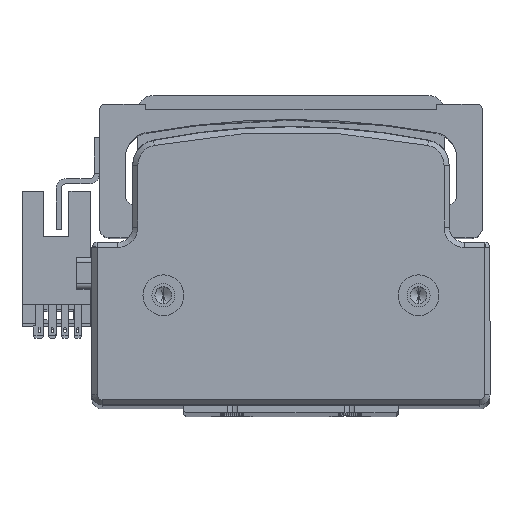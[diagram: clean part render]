
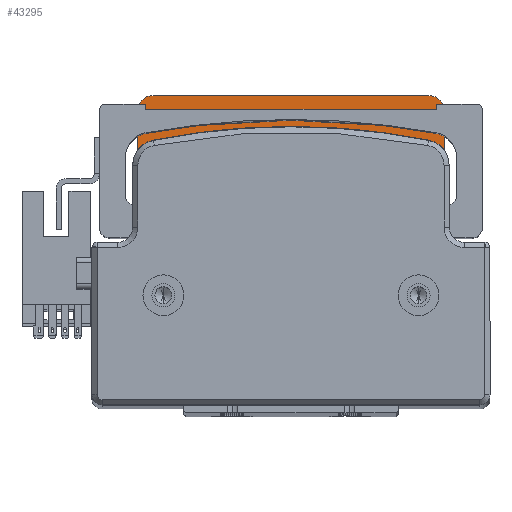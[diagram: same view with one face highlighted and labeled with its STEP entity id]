
A CAD part, top view. The second image highlights one B-rep face of the part: STEP entity #43295.
In plain terms, the highlighted planar face has unit normal (0, 0, 1) as drawn and (0, 0, -1) by its records, which use the part's own axes.
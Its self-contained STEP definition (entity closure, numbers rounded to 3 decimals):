
#344 = LINE ( 'NONE', #48832, #29508 ) ;
#531 = VERTEX_POINT ( 'NONE', #28614 ) ;
#629 = EDGE_CURVE ( 'NONE', #26598, #30236, #29017, .T. ) ;
#705 = CARTESIAN_POINT ( 'NONE',  ( 19., 30., 44. ) ) ;
#751 = CARTESIAN_POINT ( 'NONE',  ( -24.749, 24.749, 44. ) ) ;
#876 = VERTEX_POINT ( 'NONE', #28642 ) ;
#1558 = LINE ( 'NONE', #705, #30669 ) ;
#1728 = ORIENTED_EDGE ( 'NONE', *, *, #629, .F. ) ;
#1910 = CIRCLE ( 'NONE', #26261, 19. ) ;
#1962 = EDGE_LOOP ( 'NONE', ( #3566, #23325 ) ) ;
#2043 = LINE ( 'NONE', #17581, #48799 ) ;
#2486 = DIRECTION ( 'NONE',  ( 0., -1., 0. ) ) ;
#2836 = AXIS2_PLACEMENT_3D ( 'NONE', #34734, #12066, #38549 ) ;
#3104 = VECTOR ( 'NONE', #18804, 1000. ) ;
#3202 = CARTESIAN_POINT ( 'NONE',  ( -19., 17., 44. ) ) ;
#3210 = CARTESIAN_POINT ( 'NONE',  ( -27., 27., 44. ) ) ;
#3566 = ORIENTED_EDGE ( 'NONE', *, *, #25587, .F. ) ;
#3693 = CIRCLE ( 'NONE', #41589, 1.65 ) ;
#3849 = ORIENTED_EDGE ( 'NONE', *, *, #34403, .T. ) ;
#4558 = DIRECTION ( 'NONE',  ( 1., 0., 0. ) ) ;
#4708 = EDGE_CURVE ( 'NONE', #15969, #34832, #39671, .T. ) ;
#4723 = ORIENTED_EDGE ( 'NONE', *, *, #33452, .F. ) ;
#4771 = FACE_BOUND ( 'NONE', #1962, .T. ) ;
#4827 = CIRCLE ( 'NONE', #7443, 3. ) ;
#4834 = EDGE_LOOP ( 'NONE', ( #37500, #4723, #23876, #9001, #46840, #46975, #48701, #33370, #21895, #1728, #3849, #7902 ) ) ;
#4998 = AXIS2_PLACEMENT_3D ( 'NONE', #3210, #29857, #7043 ) ;
#6841 = VERTEX_POINT ( 'NONE', #45743 ) ;
#7043 = DIRECTION ( 'NONE',  ( 1., 0., 0. ) ) ;
#7443 = AXIS2_PLACEMENT_3D ( 'NONE', #19878, #46284, #23677 ) ;
#7541 = VECTOR ( 'NONE', #47703, 1000. ) ;
#7581 = VERTEX_POINT ( 'NONE', #42910 ) ;
#7902 = ORIENTED_EDGE ( 'NONE', *, *, #18330, .T. ) ;
#7997 = CARTESIAN_POINT ( 'NONE',  ( -27., 30., 44. ) ) ;
#8067 = CARTESIAN_POINT ( 'NONE',  ( 30., -30., 44. ) ) ;
#8705 = CIRCLE ( 'NONE', #35371, 1.65 ) ;
#9001 = ORIENTED_EDGE ( 'NONE', *, *, #39990, .F. ) ;
#10232 = PLANE ( 'NONE',  #35638 ) ;
#10977 = EDGE_CURVE ( 'NONE', #27405, #531, #34795, .T. ) ;
#11501 = CARTESIAN_POINT ( 'NONE',  ( 27., 30., 44. ) ) ;
#11709 = CARTESIAN_POINT ( 'NONE',  ( -24.749, 24.749, 44. ) ) ;
#11805 = CARTESIAN_POINT ( 'NONE',  ( -23.099, 24.749, 44. ) ) ;
#12066 = DIRECTION ( 'NONE',  ( 0., 0., 1. ) ) ;
#12527 = EDGE_CURVE ( 'NONE', #13616, #7581, #43992, .T. ) ;
#13616 = VERTEX_POINT ( 'NONE', #46889 ) ;
#13867 = DIRECTION ( 'NONE',  ( 0., 0., -1. ) ) ;
#14073 = VERTEX_POINT ( 'NONE', #27815 ) ;
#14592 = VECTOR ( 'NONE', #34610, 1000. ) ;
#15147 = CARTESIAN_POINT ( 'NONE',  ( 24.749, 24.749, 44. ) ) ;
#15318 = CARTESIAN_POINT ( 'NONE',  ( 0., 0., 44. ) ) ;
#15330 = CIRCLE ( 'NONE', #21264, 3. ) ;
#15502 = DIRECTION ( 'NONE',  ( 1., 0., 0. ) ) ;
#15969 = VERTEX_POINT ( 'NONE', #41127 ) ;
#17439 = VECTOR ( 'NONE', #42270, 1000. ) ;
#17581 = CARTESIAN_POINT ( 'NONE',  ( -30., -30., 44. ) ) ;
#17974 = CARTESIAN_POINT ( 'NONE',  ( 19., 17., 44. ) ) ;
#18220 = CIRCLE ( 'NONE', #2836, 3. ) ;
#18330 = EDGE_CURVE ( 'NONE', #14073, #28159, #1910, .T. ) ;
#18420 = EDGE_CURVE ( 'NONE', #27405, #30236, #4827, .T. ) ;
#18657 = LINE ( 'NONE', #38444, #17439 ) ;
#18804 = DIRECTION ( 'NONE',  ( 0., 1., 0. ) ) ;
#18960 = ORIENTED_EDGE ( 'NONE', *, *, #29929, .F. ) ;
#19051 = DIRECTION ( 'NONE',  ( 1., 0., 0. ) ) ;
#19209 = DIRECTION ( 'NONE',  ( -1., 0., 0. ) ) ;
#19553 = CARTESIAN_POINT ( 'NONE',  ( -27., 17., 44. ) ) ;
#19796 = EDGE_CURVE ( 'NONE', #26079, #531, #15330, .T. ) ;
#19878 = CARTESIAN_POINT ( 'NONE',  ( 27., 14., 44. ) ) ;
#19954 = EDGE_CURVE ( 'NONE', #876, #22625, #36099, .T. ) ;
#20126 = VERTEX_POINT ( 'NONE', #19553 ) ;
#21264 = AXIS2_PLACEMENT_3D ( 'NONE', #36575, #13867, #40420 ) ;
#21545 = CARTESIAN_POINT ( 'NONE',  ( 19., -30., 44. ) ) ;
#21701 = DIRECTION ( 'NONE',  ( -1., 0., 0. ) ) ;
#21895 = ORIENTED_EDGE ( 'NONE', *, *, #18420, .T. ) ;
#22048 = CARTESIAN_POINT ( 'NONE',  ( 24.749, 24.749, 44. ) ) ;
#22625 = VERTEX_POINT ( 'NONE', #7997 ) ;
#22872 = CARTESIAN_POINT ( 'NONE',  ( 30., 14., 44. ) ) ;
#23142 = ORIENTED_EDGE ( 'NONE', *, *, #12527, .F. ) ;
#23325 = ORIENTED_EDGE ( 'NONE', *, *, #4708, .F. ) ;
#23677 = DIRECTION ( 'NONE',  ( -1., 0., 0. ) ) ;
#23763 = EDGE_LOOP ( 'NONE', ( #23142, #18960 ) ) ;
#23876 = ORIENTED_EDGE ( 'NONE', *, *, #34153, .T. ) ;
#25587 = EDGE_CURVE ( 'NONE', #34832, #15969, #8705, .T. ) ;
#25698 = AXIS2_PLACEMENT_3D ( 'NONE', #11709, #38197, #15502 ) ;
#25821 = DIRECTION ( 'NONE',  ( 1., 0., 0. ) ) ;
#26079 = VERTEX_POINT ( 'NONE', #11501 ) ;
#26176 = FACE_BOUND ( 'NONE', #23763, .T. ) ;
#26261 = AXIS2_PLACEMENT_3D ( 'NONE', #15318, #41830, #19209 ) ;
#26598 = VERTEX_POINT ( 'NONE', #17974 ) ;
#27347 = DIRECTION ( 'NONE',  ( 0., 0., -1. ) ) ;
#27405 = VERTEX_POINT ( 'NONE', #22872 ) ;
#27815 = CARTESIAN_POINT ( 'NONE',  ( 19., 0., 44. ) ) ;
#28159 = VERTEX_POINT ( 'NONE', #29818 ) ;
#28614 = CARTESIAN_POINT ( 'NONE',  ( 30., 27., 44. ) ) ;
#28642 = CARTESIAN_POINT ( 'NONE',  ( -30., 27., 44. ) ) ;
#29017 = LINE ( 'NONE', #43906, #7541 ) ;
#29508 = VECTOR ( 'NONE', #30071, 1000. ) ;
#29818 = CARTESIAN_POINT ( 'NONE',  ( -19., 0., 44. ) ) ;
#29857 = DIRECTION ( 'NONE',  ( 0., 0., -1. ) ) ;
#29865 = VERTEX_POINT ( 'NONE', #3202 ) ;
#29929 = EDGE_CURVE ( 'NONE', #7581, #13616, #3693, .T. ) ;
#30071 = DIRECTION ( 'NONE',  ( 1., 0., 0. ) ) ;
#30236 = VERTEX_POINT ( 'NONE', #40678 ) ;
#30669 = VECTOR ( 'NONE', #42664, 1000. ) ;
#33370 = ORIENTED_EDGE ( 'NONE', *, *, #10977, .F. ) ;
#33452 = EDGE_CURVE ( 'NONE', #20126, #29865, #344, .T. ) ;
#34153 = EDGE_CURVE ( 'NONE', #20126, #6841, #18220, .T. ) ;
#34403 = EDGE_CURVE ( 'NONE', #26598, #14073, #1558, .T. ) ;
#34610 = DIRECTION ( 'NONE',  ( 0., 1., 0. ) ) ;
#34734 = CARTESIAN_POINT ( 'NONE',  ( -27., 14., 44. ) ) ;
#34795 = LINE ( 'NONE', #8067, #14592 ) ;
#34832 = VERTEX_POINT ( 'NONE', #11805 ) ;
#35035 = FACE_OUTER_BOUND ( 'NONE', #4834, .T. ) ;
#35371 = AXIS2_PLACEMENT_3D ( 'NONE', #751, #27347, #4558 ) ;
#35638 = AXIS2_PLACEMENT_3D ( 'NONE', #21545, #44287, #21701 ) ;
#36099 = CIRCLE ( 'NONE', #4998, 3. ) ;
#36575 = CARTESIAN_POINT ( 'NONE',  ( 27., 27., 44. ) ) ;
#37500 = ORIENTED_EDGE ( 'NONE', *, *, #39426, .T. ) ;
#38197 = DIRECTION ( 'NONE',  ( 0., 0., -1. ) ) ;
#38444 = CARTESIAN_POINT ( 'NONE',  ( 19., 30., 44. ) ) ;
#38549 = DIRECTION ( 'NONE',  ( -1., 0., 0. ) ) ;
#39426 = EDGE_CURVE ( 'NONE', #28159, #29865, #43438, .T. ) ;
#39671 = CIRCLE ( 'NONE', #25698, 1.65 ) ;
#39990 = EDGE_CURVE ( 'NONE', #876, #6841, #2043, .T. ) ;
#40420 = DIRECTION ( 'NONE',  ( 1., 0., 0. ) ) ;
#40678 = CARTESIAN_POINT ( 'NONE',  ( 27., 17., 44. ) ) ;
#41127 = CARTESIAN_POINT ( 'NONE',  ( -26.399, 24.749, 44. ) ) ;
#41441 = CARTESIAN_POINT ( 'NONE',  ( -19., 30., 44. ) ) ;
#41589 = AXIS2_PLACEMENT_3D ( 'NONE', #15147, #41666, #19051 ) ;
#41666 = DIRECTION ( 'NONE',  ( 0., 0., -1. ) ) ;
#41830 = DIRECTION ( 'NONE',  ( 0., 0., 1. ) ) ;
#41846 = EDGE_CURVE ( 'NONE', #22625, #26079, #18657, .T. ) ;
#42270 = DIRECTION ( 'NONE',  ( 1., 0., 0. ) ) ;
#42664 = DIRECTION ( 'NONE',  ( 0., -1., 0. ) ) ;
#42910 = CARTESIAN_POINT ( 'NONE',  ( 23.099, 24.749, 44. ) ) ;
#43295 = ADVANCED_FACE ( 'NONE', ( #35035, #4771, #26176 ), #10232, .T. ) ;
#43438 = LINE ( 'NONE', #41441, #3104 ) ;
#43906 = CARTESIAN_POINT ( 'NONE',  ( -39.764, 17., 44. ) ) ;
#43947 = AXIS2_PLACEMENT_3D ( 'NONE', #22048, #48415, #25821 ) ;
#43992 = CIRCLE ( 'NONE', #43947, 1.65 ) ;
#44287 = DIRECTION ( 'NONE',  ( 0., 0., -1. ) ) ;
#45743 = CARTESIAN_POINT ( 'NONE',  ( -30., 14., 44. ) ) ;
#46284 = DIRECTION ( 'NONE',  ( 0., 0., 1. ) ) ;
#46840 = ORIENTED_EDGE ( 'NONE', *, *, #19954, .T. ) ;
#46889 = CARTESIAN_POINT ( 'NONE',  ( 26.399, 24.749, 44. ) ) ;
#46975 = ORIENTED_EDGE ( 'NONE', *, *, #41846, .T. ) ;
#47703 = DIRECTION ( 'NONE',  ( 1., 0., 0. ) ) ;
#48415 = DIRECTION ( 'NONE',  ( 0., 0., -1. ) ) ;
#48701 = ORIENTED_EDGE ( 'NONE', *, *, #19796, .T. ) ;
#48799 = VECTOR ( 'NONE', #2486, 1000. ) ;
#48832 = CARTESIAN_POINT ( 'NONE',  ( -39.764, 17., 44. ) ) ;
